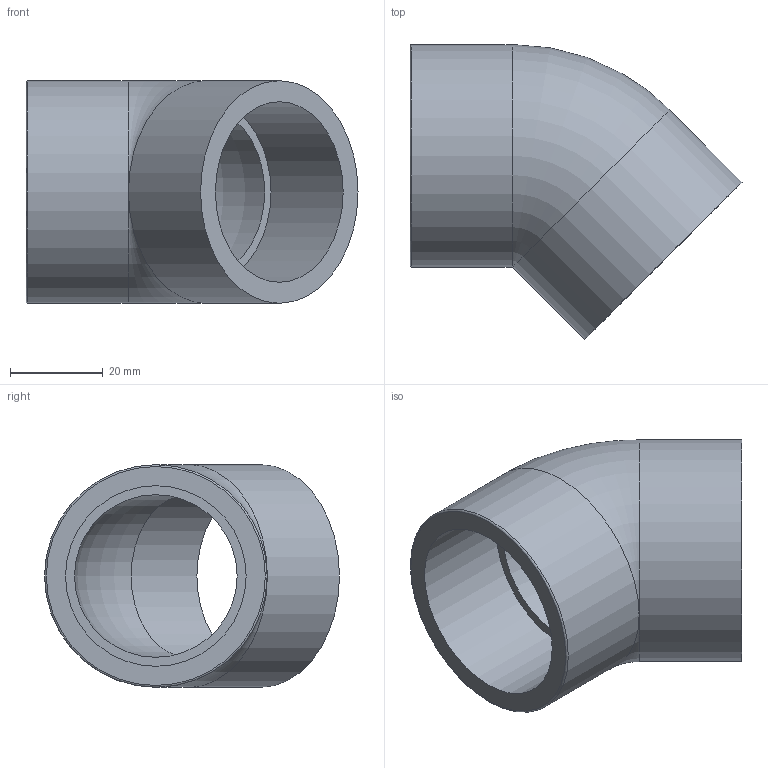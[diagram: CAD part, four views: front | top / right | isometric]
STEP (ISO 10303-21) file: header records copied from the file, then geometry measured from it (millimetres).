
FILE_DESCRIPTION(/* description */ ('PLASSON THREADED 45° ELBOW HF 1.1/4"'),/* implementation_level */ '2;1');
FILE_NAME(/* name */ 'C:\Dropbox\KIMPROJECTS-Inventor\99-16-3568-Processing\PVC Catalog 2017\26_09_18\054501\054501013.ipt.stp',/* time_stamp */ '2018-09-27T11:50:33+03:00',/* author */ ('KIM'),/* organization */ (''),/* preprocessor_version */ 'ST-DEVELOPER v15.6',/* originating_system */ 'Autodesk Inventor 2015',/* authorisation */ '');
FILE_SCHEMA (('AUTOMOTIVE_DESIGN { 1 0 10303 214 3 1 1 }'));
Length unit declared in the file: millimetre
Products named in the file (1): 054501013
Bounding box: 71.6 x 63.6 x 48 mm (x, y, z)
Volume: 43192.2 mm3; surface area: 18630.3 mm2
Topology: 1 solids, 1 shells, 11 faces, 21 edges, 14 vertices
Faces by surface type: cylinder 4, plane 4, torus 3
Full cylindrical faces by diameter (mm): 38.952 x2, 48 x2
Entity records: 252 total; most frequent: DIRECTION 46, CARTESIAN_POINT 34, AXIS2_PLACEMENT_3D 23, EDGE_LOOP 22, ORIENTED_EDGE 22, FACE_BOUND 11, FACE_OUTER_BOUND 11, CIRCLE 11
